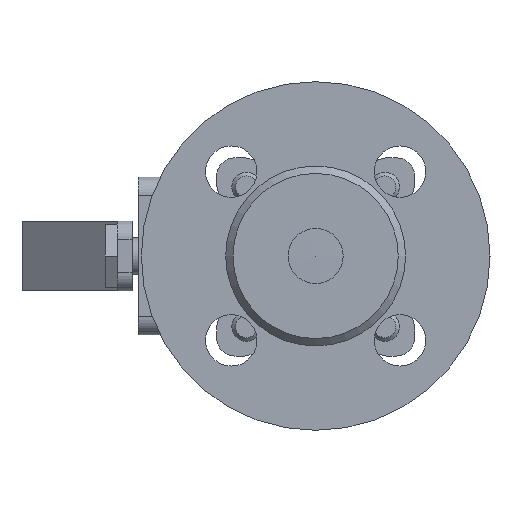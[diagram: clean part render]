
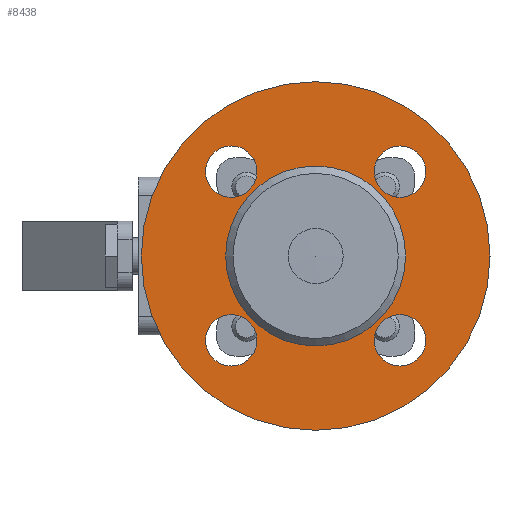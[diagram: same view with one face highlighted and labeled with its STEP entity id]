
A CAD part, left-side view. The second image highlights one B-rep face of the part: STEP entity #8438.
In plain terms, the highlighted planar face has unit normal (-1, 0, 0).
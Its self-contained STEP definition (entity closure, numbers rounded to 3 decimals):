
#8438=ADVANCED_FACE('',(#15734,#15736,#15738,#15740,#15742,#15744),#15746,.T.);
#15734=FACE_BOUND('',#15735,.T.);
#15735=EDGE_LOOP('',(#21712,#21713));
#15736=FACE_BOUND('',#15737,.T.);
#15737=EDGE_LOOP('',(#21714));
#15738=FACE_BOUND('',#15739,.T.);
#15739=EDGE_LOOP('',(#21715));
#15740=FACE_BOUND('',#15741,.T.);
#15741=EDGE_LOOP('',(#21716));
#15742=FACE_BOUND('',#15743,.T.);
#15743=EDGE_LOOP('',(#21717));
#15744=FACE_BOUND('',#15745,.T.);
#15745=EDGE_LOOP('',(#21718,#21719));
#15746=PLANE('',#15747);
#15747=AXIS2_PLACEMENT_3D('',#15748,#15749,#15750);
#15748=CARTESIAN_POINT('',(2991.394,1694.559,-216.867));
#15749=DIRECTION('',(-1.,0.,0.));
#15750=DIRECTION('',(0.,0.,1.));
#21712=ORIENTED_EDGE('',*,*,#24783,.F.);
#21713=ORIENTED_EDGE('',*,*,#24784,.F.);
#21714=ORIENTED_EDGE('',*,*,#24774,.T.);
#21715=ORIENTED_EDGE('',*,*,#24776,.T.);
#21716=ORIENTED_EDGE('',*,*,#24778,.T.);
#21717=ORIENTED_EDGE('',*,*,#24772,.T.);
#21718=ORIENTED_EDGE('',*,*,#24780,.T.);
#21719=ORIENTED_EDGE('',*,*,#24779,.T.);
#24772=EDGE_CURVE('',#29380,#29380,#29381,.T.);
#24774=EDGE_CURVE('',#29384,#29384,#29385,.T.);
#24776=EDGE_CURVE('',#29388,#29388,#29389,.T.);
#24778=EDGE_CURVE('',#29392,#29392,#29393,.T.);
#24779=EDGE_CURVE('',#29394,#29395,#29396,.T.);
#24780=EDGE_CURVE('',#29395,#29394,#29397,.T.);
#24783=EDGE_CURVE('',#29402,#29403,#29404,.T.);
#24784=EDGE_CURVE('',#29403,#29402,#29405,.T.);
#29380=VERTEX_POINT('',#40457);
#29381=CIRCLE('',#40458,7.);
#29384=VERTEX_POINT('',#40467);
#29385=CIRCLE('',#40468,7.);
#29388=VERTEX_POINT('',#40477);
#29389=CIRCLE('',#40478,7.);
#29392=VERTEX_POINT('',#40487);
#29393=CIRCLE('',#40488,7.);
#29394=VERTEX_POINT('',#40492);
#29395=VERTEX_POINT('',#40493);
#29396=CIRCLE('',#40494,24.5);
#29397=CIRCLE('',#40498,24.5);
#29402=VERTEX_POINT('',#40512);
#29403=VERTEX_POINT('',#40513);
#29404=CIRCLE('',#40514,47.5);
#29405=CIRCLE('',#40518,47.5);
#40457=CARTESIAN_POINT('',(2991.394,1624.078,-186.886));
#40458=AXIS2_PLACEMENT_3D('',#40459,#40460,#40461);
#40459=CARTESIAN_POINT('',(2991.394,1624.078,-193.886));
#40460=DIRECTION('',(1.,0.,0.));
#40461=DIRECTION('',(0.,0.,1.));
#40467=CARTESIAN_POINT('',(2991.394,1670.04,-232.848));
#40468=AXIS2_PLACEMENT_3D('',#40469,#40470,#40471);
#40469=CARTESIAN_POINT('',(2991.394,1670.04,-239.848));
#40470=DIRECTION('',(1.,0.,0.));
#40471=DIRECTION('',(0.,0.,1.));
#40477=CARTESIAN_POINT('',(2991.394,1624.078,-232.848));
#40478=AXIS2_PLACEMENT_3D('',#40479,#40480,#40481);
#40479=CARTESIAN_POINT('',(2991.394,1624.078,-239.848));
#40480=DIRECTION('',(1.,0.,0.));
#40481=DIRECTION('',(0.,0.,1.));
#40487=CARTESIAN_POINT('',(2991.394,1670.04,-186.886));
#40488=AXIS2_PLACEMENT_3D('',#40489,#40490,#40491);
#40489=CARTESIAN_POINT('',(2991.394,1670.04,-193.886));
#40490=DIRECTION('',(1.,0.,0.));
#40491=DIRECTION('',(0.,0.,1.));
#40492=CARTESIAN_POINT('',(2991.394,1622.559,-216.867));
#40493=CARTESIAN_POINT('',(2991.394,1671.559,-216.867));
#40494=AXIS2_PLACEMENT_3D('',#40495,#40496,#40497);
#40495=CARTESIAN_POINT('',(2991.394,1647.059,-216.867));
#40496=DIRECTION('',(1.,0.,0.));
#40497=DIRECTION('',(0.,-1.,0.));
#40498=AXIS2_PLACEMENT_3D('',#40499,#40500,#40501);
#40499=CARTESIAN_POINT('',(2991.394,1647.059,-216.867));
#40500=DIRECTION('',(1.,0.,0.));
#40501=DIRECTION('',(0.,1.,0.));
#40512=CARTESIAN_POINT('',(2991.394,1599.559,-216.867));
#40513=CARTESIAN_POINT('',(2991.394,1694.559,-216.867));
#40514=AXIS2_PLACEMENT_3D('',#40515,#40516,#40517);
#40515=CARTESIAN_POINT('',(2991.394,1647.059,-216.867));
#40516=DIRECTION('',(1.,0.,0.));
#40517=DIRECTION('',(0.,-1.,0.));
#40518=AXIS2_PLACEMENT_3D('',#40519,#40520,#40521);
#40519=CARTESIAN_POINT('',(2991.394,1647.059,-216.867));
#40520=DIRECTION('',(1.,0.,0.));
#40521=DIRECTION('',(0.,1.,0.));
